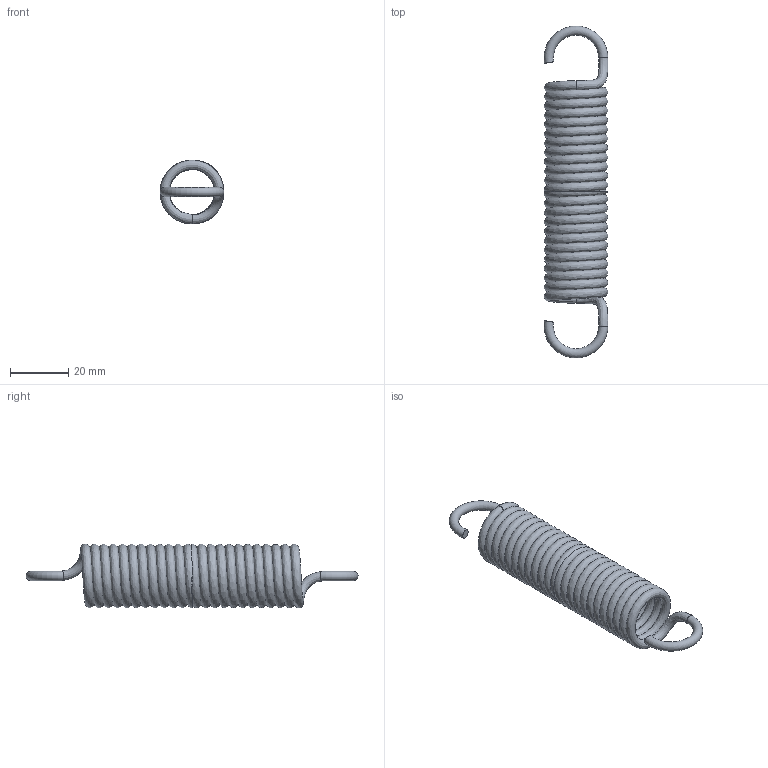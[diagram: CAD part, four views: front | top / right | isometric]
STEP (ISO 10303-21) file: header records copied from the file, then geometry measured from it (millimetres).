
FILE_DESCRIPTION(/* description */ ('386 | 6,48 | 0'),/* implementation_level */ '2;1');
FILE_NAME(/* name */ 'T12130.step',/* time_stamp */ '2026-10-05T10:01:47+02:00',/* author */ ('impex-ready.pl'),/* organization */ ('T12130'),/* preprocessor_version */ 'ST-DEVELOPER v20.1',/* originating_system */ 'Autodesk Inventor 2026',/* authorisation */ 'stal sprezynowa');
FILE_SCHEMA (('AUTOMOTIVE_DESIGN { 1 0 10303 214 3 1 1 }'));
Length unit declared in the file: millimetre
Products named in the file (1): T12130
Bounding box: 22 x 114.4 x 22 mm (x, y, z)
Volume: 11747.2 mm3; surface area: 14749.9 mm2
Topology: 1 solids, 1 shells, 10 faces, 34 edges, 22 vertices
Faces by surface type: plane 4, bspline 4, torus 2
Entity records: 5020 total; most frequent: CARTESIAN_POINT 4708, ORIENTED_EDGE 68, DIRECTION 42, EDGE_CURVE 34, VERTEX_POINT 22, AXIS2_PLACEMENT_3D 21, B_SPLINE_CURVE_WITH_KNOTS 20, CIRCLE 14
